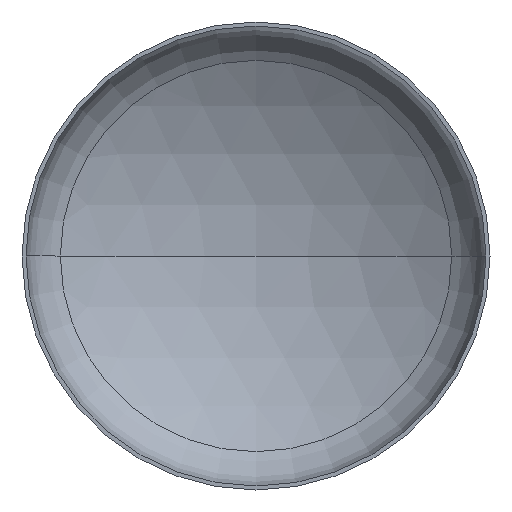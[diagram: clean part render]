
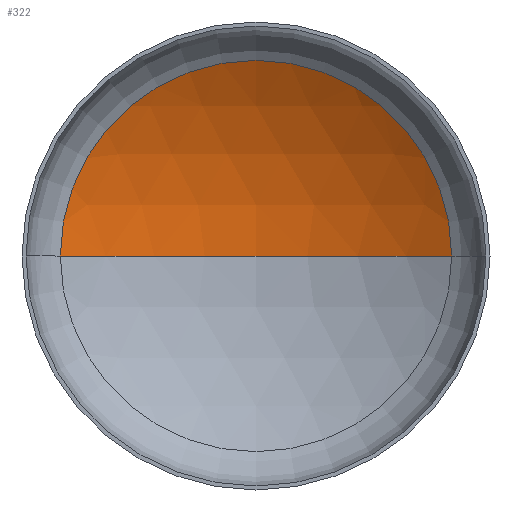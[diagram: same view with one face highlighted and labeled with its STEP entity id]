
A CAD part, front view. The second image highlights one B-rep face of the part: STEP entity #322.
In plain terms, the highlighted spherical face has radius 2240 mm.
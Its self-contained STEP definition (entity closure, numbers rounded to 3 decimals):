
#11 = EDGE_LOOP ( 'NONE', ( #132, #76, #73 ) ) ;
#13 = DIRECTION ( 'NONE',  ( -1., 0., 0. ) ) ;
#14 = VERTEX_POINT ( 'NONE', #246 ) ;
#35 = VERTEX_POINT ( 'NONE', #349 ) ;
#46 = DIRECTION ( 'NONE',  ( 0., -1., 0. ) ) ;
#61 = AXIS2_PLACEMENT_3D ( 'NONE', #294, #143, #315 ) ;
#73 = ORIENTED_EDGE ( 'NONE', *, *, #191, .T. ) ;
#76 = ORIENTED_EDGE ( 'NONE', *, *, #192, .T. ) ;
#84 = VERTEX_POINT ( 'NONE', #237 ) ;
#121 = AXIS2_PLACEMENT_3D ( 'NONE', #251, #399, #354 ) ;
#124 = AXIS2_PLACEMENT_3D ( 'NONE', #219, #287, #13 ) ;
#125 = AXIS2_PLACEMENT_3D ( 'NONE', #183, #46, #293 ) ;
#132 = ORIENTED_EDGE ( 'NONE', *, *, #197, .F. ) ;
#143 = DIRECTION ( 'NONE',  ( 0., 0., -1. ) ) ;
#182 = CIRCLE ( 'NONE', #121, 2240. ) ;
#183 = CARTESIAN_POINT ( 'NONE',  ( 0., 441.595, 0. ) ) ;
#191 = EDGE_CURVE ( 'NONE', #14, #35, #374, .T. ) ;
#192 = EDGE_CURVE ( 'NONE', #84, #14, #318, .T. ) ;
#197 = EDGE_CURVE ( 'NONE', #84, #35, #182, .T. ) ;
#219 = CARTESIAN_POINT ( 'NONE',  ( 0., -1468.109, 0. ) ) ;
#236 = FACE_OUTER_BOUND ( 'NONE', #11, .T. ) ;
#237 = CARTESIAN_POINT ( 'NONE',  ( 0., 771.891, 0. ) ) ;
#246 = CARTESIAN_POINT ( 'NONE',  ( 1170.74, 441.595, 0. ) ) ;
#251 = CARTESIAN_POINT ( 'NONE',  ( 0., -1468.109, 0. ) ) ;
#287 = DIRECTION ( 'NONE',  ( 0., 0., -1. ) ) ;
#293 = DIRECTION ( 'NONE',  ( 1., 0., 0. ) ) ;
#294 = CARTESIAN_POINT ( 'NONE',  ( 0., -1468.109, 0. ) ) ;
#315 = DIRECTION ( 'NONE',  ( -1., 0., 0. ) ) ;
#318 = CIRCLE ( 'NONE', #124, 2240. ) ;
#322 = ADVANCED_FACE ( 'NONE', ( #236 ), #347, .F. ) ;
#347 = SPHERICAL_SURFACE ( 'NONE', #61, 2240. ) ;
#349 = CARTESIAN_POINT ( 'NONE',  ( -1170.74, 441.595, 0. ) ) ;
#354 = DIRECTION ( 'NONE',  ( 1., 0., 0. ) ) ;
#374 = CIRCLE ( 'NONE', #125, 1170.74 ) ;
#399 = DIRECTION ( 'NONE',  ( 0., 0., 1. ) ) ;
